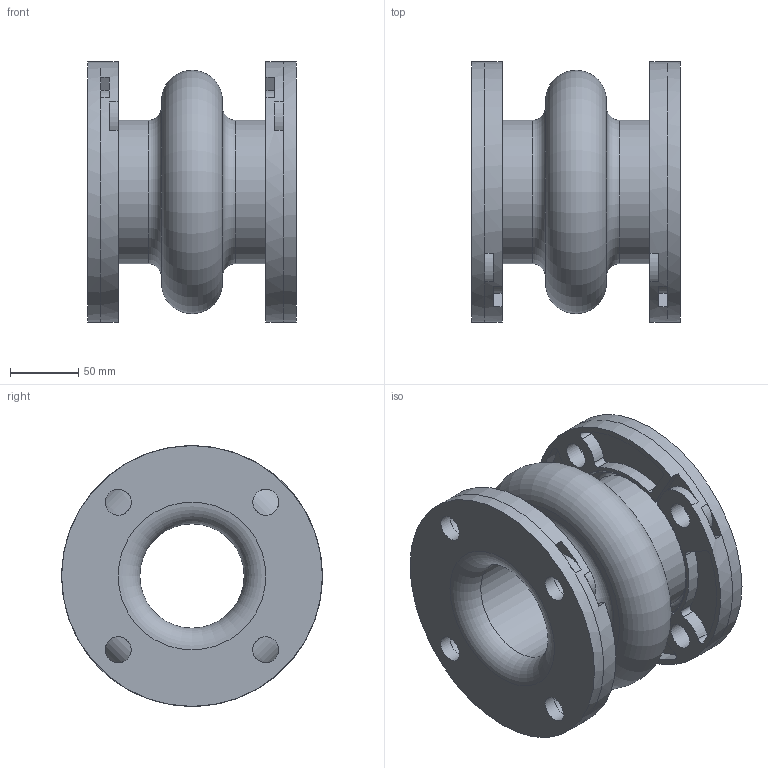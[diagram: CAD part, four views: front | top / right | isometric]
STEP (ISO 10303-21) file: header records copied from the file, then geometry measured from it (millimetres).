
FILE_DESCRIPTION(/* description */ (''),/* implementation_level */ '2;1');
FILE_NAME(/* name */ 'C:\001_Work\Designs\Mercer2014\MQInventor2014\RajR\500 Style\501\New folder\501 3IDx6FF.stp',/* time_stamp */ '2016-03-26T14:35:42-04:00',/* author */ ('rramoutar'),/* organization */ ('Mason Industries Inc.'),/* preprocessor_version */ 'ST-DEVELOPER v15.6',/* originating_system */ 'Autodesk Inventor 2015',/* authorisation */ '');
FILE_SCHEMA (('CONFIG_CONTROL_DESIGN'));
Length unit declared in the file: inch
Products named in the file (1): 501 3IDx6FF
Bounding box: 152.4 x 190.5 x 190.5 mm (x, y, z)
Volume: 1572055.4 mm3; surface area: 284699.9 mm2
Topology: 1 solids, 1 shells, 166 faces, 464 edges, 302 vertices
Faces by surface type: cylinder 98, plane 48, torus 16, cone 4
Full cylindrical faces by diameter (mm): 19.05 x16, 76.2 x2, 104.775 x2, 117.475 x2, 190.5 x4
Entity records: 5514 total; most frequent: CARTESIAN_POINT 1075, DIRECTION 958, ORIENTED_EDGE 816, EDGE_CURVE 408, AXIS2_PLACEMENT_3D 399, VERTEX_POINT 284, EDGE_LOOP 232, CIRCLE 232
